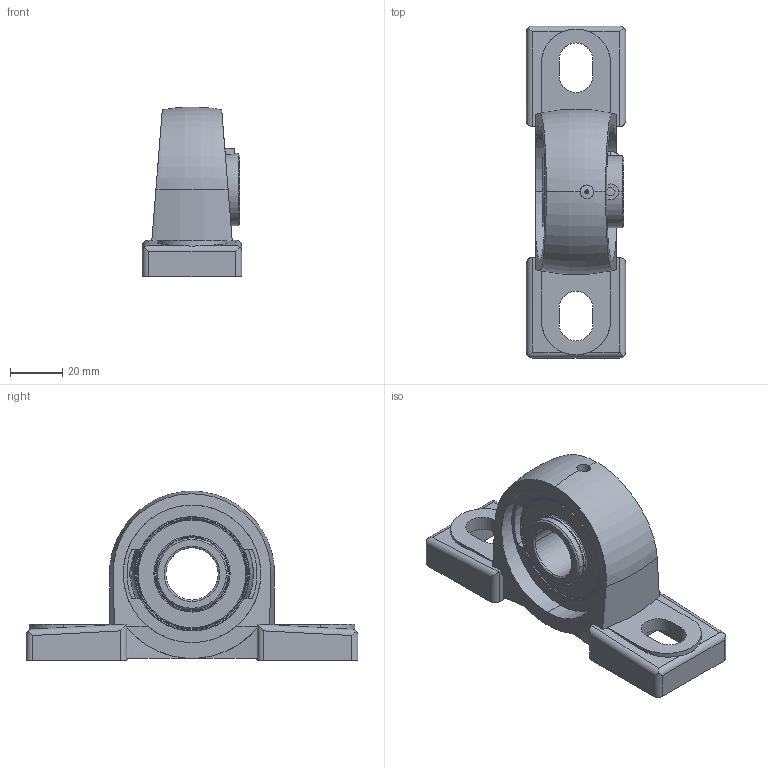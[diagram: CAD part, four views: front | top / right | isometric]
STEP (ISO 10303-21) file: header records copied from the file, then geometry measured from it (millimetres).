
FILE_DESCRIPTION (( 'STEP AP214' ), '1' );
FILE_NAME ('4.0027 Laakeri UCP 204 JIB.STEP', '2026-02-05T09:58:14', ( '' ), ( '' ), 'SwSTEP 2.0', 'SolidWorks 2025', '' );
FILE_SCHEMA (( 'AUTOMOTIVE_DESIGN' ));
Length unit declared in the file: millimetre
Products named in the file (1): 4.0027 Laakeri UCP 204 JIB
Bounding box: 38 x 127 x 64.98 mm (x, y, z)
Volume: 86718.5 mm3; surface area: 44596.5 mm2
Topology: 14 solids, 14 shells, 294 faces, 771 edges, 500 vertices
Faces by surface type: plane 98, cylinder 96, cone 50, torus 28, sphere 22
Entity records: 11401 total; most frequent: CARTESIAN_POINT 2672, DIRECTION 1592, ORIENTED_EDGE 1456, EDGE_CURVE 728, AXIS2_PLACEMENT_3D 649, VERTEX_POINT 477, CIRCLE 354, EDGE_LOOP 337
